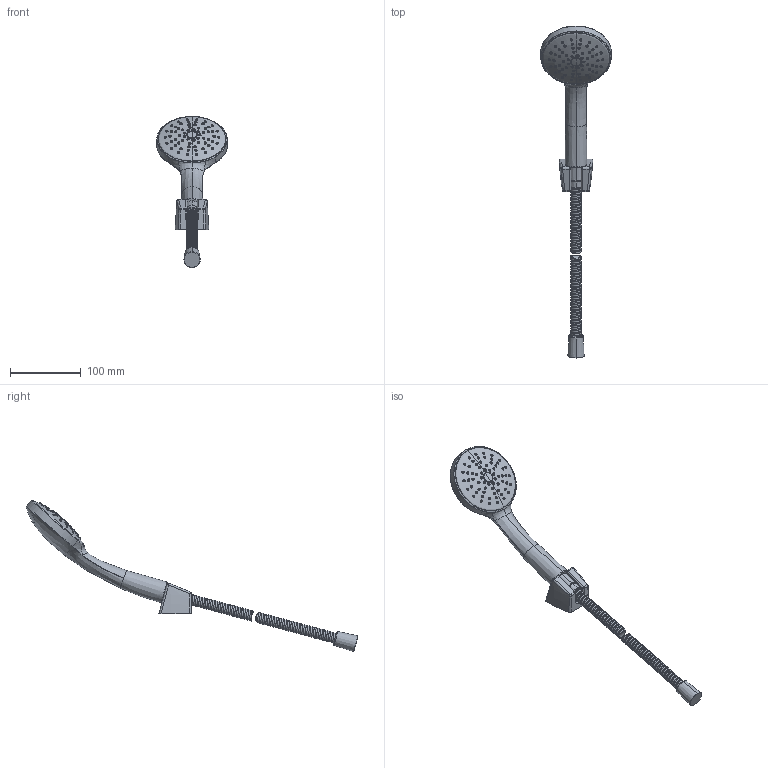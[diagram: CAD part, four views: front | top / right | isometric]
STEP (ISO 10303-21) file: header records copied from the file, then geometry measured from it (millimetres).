
FILE_DESCRIPTION((''),'2;1');
FILE_NAME('76674--','2026-09-24T08:41:56',('simi1'),(''),'CREO PARAMETRIC BY PTC INC, 2022244','CREO PARAMETRIC BY PTC INC, 2022244','');
FILE_SCHEMA(('CONFIG_CONTROL_DESIGN'));
Products named in the file (1): 76674--
Bounding box: 99.91 x 469.59 x 213.85 mm (x, y, z)
Surface area: 69328.6 mm2 (no closed solid volume)
Topology: 0 solids, 78 shells, 636 faces, 1746 edges, 1168 vertices
Faces by surface type: cone 175, torus 158, cylinder 127, bspline 92, plane 72, revolution 8, sphere 4
Entity records: 42604 total; most frequent: CARTESIAN_POINT 27447, ORIENTED_EDGE 3202, DIRECTION 3025, EDGE_CURVE 1744, AXIS2_PLACEMENT_3D 1325, VERTEX_POINT 1168, CIRCLE 789, EDGE_LOOP 636
